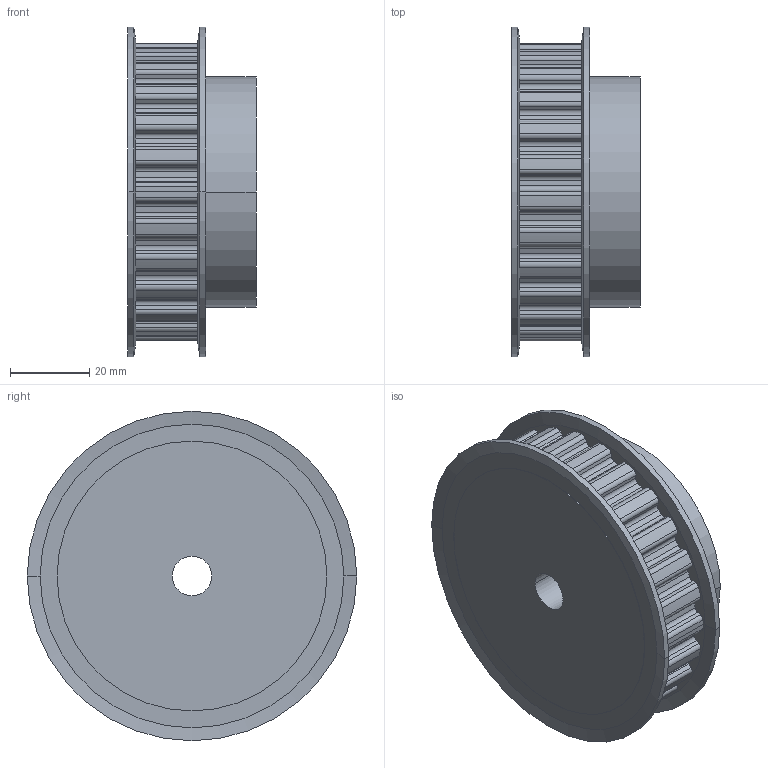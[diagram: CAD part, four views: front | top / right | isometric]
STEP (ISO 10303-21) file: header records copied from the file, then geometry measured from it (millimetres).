
FILE_DESCRIPTION( ( '' ), '1' );
FILE_NAME( 'C:/Users/Stangenbergd/Documents/CAD_Step/1/18212500.stp', '2021-10-19T10:35:26', ( '' ), ( '' ), ' ', ' ', ' ' );
FILE_SCHEMA( ( 'CONFIG_CONTROL_DESIGN' ) );
Length unit declared in the file: millimetre
Products named in the file (1): 1
Bounding box: 32.31 x 83 x 83 mm (x, y, z)
Volume: 114408 mm3; surface area: 22179 mm2
Topology: 1 solids, 1 shells, 228 faces, 655 edges, 434 vertices
Faces by surface type: cylinder 138, plane 82, cone 8
Entity records: 7627 total; most frequent: DIRECTION 1397, CARTESIAN_POINT 1318, ORIENTED_EDGE 1310, EDGE_CURVE 655, AXIS2_PLACEMENT_3D 513, VERTEX_POINT 434, LINE 371, VECTOR 371
